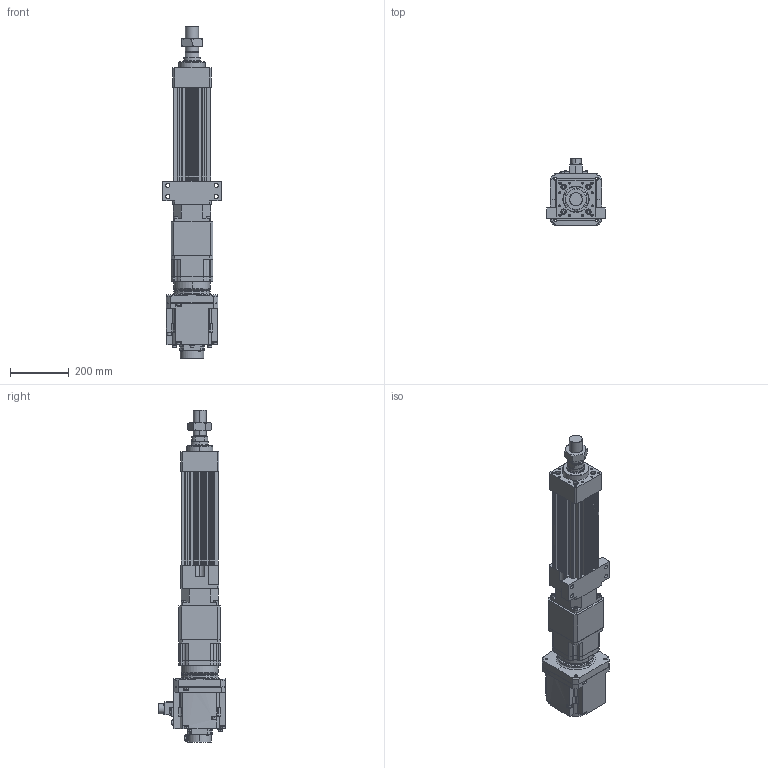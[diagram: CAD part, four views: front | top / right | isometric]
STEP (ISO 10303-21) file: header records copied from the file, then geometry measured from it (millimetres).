
FILE_DESCRIPTION (( 'STEP AP203' ), '1' );
FILE_NAME ('HES130NS(FS)(HS)-S100-W020G00-M-FFC.STEP', '2026-06-10T06:17:36', ( 'tms' ), ( '' ), 'SwSTEP 2.0', 'SolidWorks 2013', '' );
FILE_SCHEMA (( 'CONFIG_CONTROL_DESIGN' ));
Length unit declared in the file: millimetre
Products named in the file (9): M45X1.5P; HES130-FFC-100; HES130-S-G142; HES130NS(FS)(HS)-S100-W020G00-M-FFC; AB1423; HG-SR202B; AB1421; AB1422; HES130-M-ROD-100
Assembly tree (8 placements, depth 2):
  HES130NS(FS)(HS)-S100-W020G00-M-FFC
    HES130-FFC-100
    HES130-M-ROD-100
    M45X1.5P
    HES130-S-G142
    AB1421
    AB1422
    AB1423
    HG-SR202B
Bounding box: 200 x 228.85 x 1135 mm (x, y, z)
Volume: 11105357.8 mm3; surface area: 1258510.8 mm2
Topology: 5 solids, 19 shells, 1585 faces, 4100 edges, 2650 vertices
Faces by surface type: cylinder 710, plane 617, cone 176, bspline 76, torus 6
Entity records: 57272 total; most frequent: CARTESIAN_POINT 17113, DIRECTION 8420, ORIENTED_EDGE 8078, EDGE_CURVE 4061, AXIS2_PLACEMENT_3D 3174, VERTEX_POINT 2650, VECTOR 2072, LINE 2072
